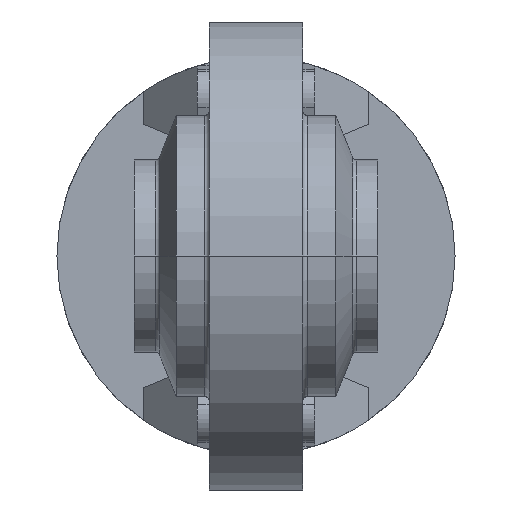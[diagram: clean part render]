
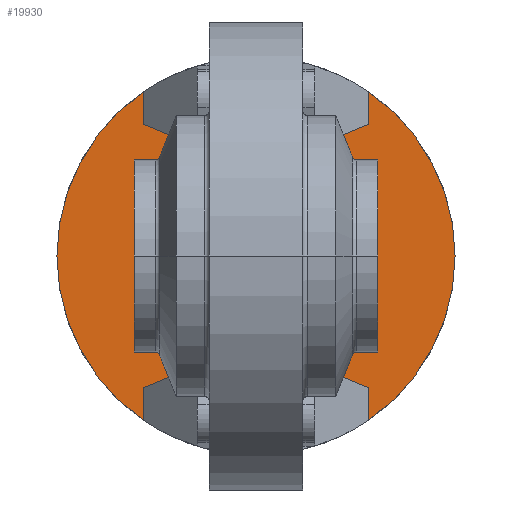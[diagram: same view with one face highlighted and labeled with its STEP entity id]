
A CAD part, front view. The second image highlights one B-rep face of the part: STEP entity #19930.
In plain terms, the highlighted planar face has unit normal (0, -1, 0).
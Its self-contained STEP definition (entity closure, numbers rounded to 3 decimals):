
#19000=CARTESIAN_POINT('',(-73.686,119.743,
0.));
#19010=DIRECTION('',(0.,-1.,0.));
#19020=DIRECTION('',(0.,0.,1.));
#19030=AXIS2_PLACEMENT_3D('',#19000,#19010,#19020);
#19040=PLANE('',#19030);
#19050=CARTESIAN_POINT('',(-49.686,119.743,
0.));
#19060=DIRECTION('',(0.,0.,1.));
#19070=VECTOR('',#19060,1.);
#19080=LINE('',#19050,#19070);
#19090=CARTESIAN_POINT('',(-49.686,119.743,
-35.075));
#19100=VERTEX_POINT('',#19090);
#19110=CARTESIAN_POINT('',(-49.686,119.743,-32.));
#19120=VERTEX_POINT('',#19110);
#19130=EDGE_CURVE('',#19100,#19120,#19080,.T.);
#19140=ORIENTED_EDGE('',*,*,#19130,.F.);
#19150=CARTESIAN_POINT('',(-73.686,119.743,
0.));
#19160=DIRECTION('',(0.,-1.,0.));
#19170=DIRECTION('',(0.,0.,-1.));
#19180=AXIS2_PLACEMENT_3D('',#19150,#19160,#19170);
#19190=CIRCLE('',#19180,40.);
#19200=CARTESIAN_POINT('',(-73.686,119.743,-40.));
#19210=VERTEX_POINT('',#19200);
#19220=EDGE_CURVE('',#19210,#19120,#19190,.T.);
#19230=ORIENTED_EDGE('',*,*,#19220,.T.);
#19240=CARTESIAN_POINT('',(-97.686,119.743,-32.));
#19250=VERTEX_POINT('',#19240);
#19260=EDGE_CURVE('',#19250,#19210,#19190,.T.);
#19270=ORIENTED_EDGE('',*,*,#19260,.T.);
#19280=CARTESIAN_POINT('',(-97.686,119.743,
0.));
#19290=DIRECTION('',(0.,0.,-1.));
#19300=VECTOR('',#19290,1.);
#19310=LINE('',#19280,#19300);
#19320=CARTESIAN_POINT('',(-97.686,119.743,
-35.075));
#19330=VERTEX_POINT('',#19320);
#19340=EDGE_CURVE('',#19250,#19330,#19310,.T.);
#19350=ORIENTED_EDGE('',*,*,#19340,.F.);
#19360=CARTESIAN_POINT('',(-73.686,119.743,
0.));
#19370=DIRECTION('',(0.,-1.,0.));
#19380=DIRECTION('',(0.,0.,1.));
#19390=AXIS2_PLACEMENT_3D('',#19360,#19370,#19380);
#19400=CIRCLE('',#19390,42.5);
#19410=CARTESIAN_POINT('',(-97.686,119.743,
35.075));
#19420=VERTEX_POINT('',#19410);
#19430=EDGE_CURVE('',#19420,#19330,#19400,.T.);
#19440=ORIENTED_EDGE('',*,*,#19430,.T.);
#19450=CARTESIAN_POINT('',(-97.686,119.743,
0.));
#19460=DIRECTION('',(0.,0.,-1.));
#19470=VECTOR('',#19460,1.);
#19480=LINE('',#19450,#19470);
#19490=CARTESIAN_POINT('',(-97.686,119.743,32.));
#19500=VERTEX_POINT('',#19490);
#19510=EDGE_CURVE('',#19420,#19500,#19480,.T.);
#19520=ORIENTED_EDGE('',*,*,#19510,.F.);
#19530=CARTESIAN_POINT('',(-73.686,119.743,
0.));
#19540=DIRECTION('',(0.,-1.,0.));
#19550=DIRECTION('',(0.,0.,1.));
#19560=AXIS2_PLACEMENT_3D('',#19530,#19540,#19550);
#19570=CIRCLE('',#19560,40.);
#19580=CARTESIAN_POINT('',(-73.686,119.743,40.));
#19590=VERTEX_POINT('',#19580);
#19600=EDGE_CURVE('',#19590,#19500,#19570,.T.);
#19610=ORIENTED_EDGE('',*,*,#19600,.T.);
#19620=CARTESIAN_POINT('',(-49.686,119.743,32.));
#19630=VERTEX_POINT('',#19620);
#19640=EDGE_CURVE('',#19630,#19590,#19570,.T.);
#19650=ORIENTED_EDGE('',*,*,#19640,.T.);
#19660=CARTESIAN_POINT('',(-49.686,119.743,
0.));
#19670=DIRECTION('',(0.,0.,1.));
#19680=VECTOR('',#19670,1.);
#19690=LINE('',#19660,#19680);
#19700=CARTESIAN_POINT('',(-49.686,119.743,
35.075));
#19710=VERTEX_POINT('',#19700);
#19720=EDGE_CURVE('',#19630,#19710,#19690,.T.);
#19730=ORIENTED_EDGE('',*,*,#19720,.F.);
#19740=EDGE_CURVE('',#19100,#19710,#19400,.T.);
#19750=ORIENTED_EDGE('',*,*,#19740,.T.);
#19760=EDGE_LOOP('',(#19750,#19730,#19650,#19610,#19520,#19440,#19350,
#19270,#19230,#19140));
#19770=FACE_OUTER_BOUND('',#19760,.T.);
#19780=CARTESIAN_POINT('',(-73.686,119.743,
0.));
#19790=DIRECTION('',(0.,-1.,0.));
#19800=DIRECTION('',(1.,0.,0.));
#19810=AXIS2_PLACEMENT_3D('',#19780,#19790,#19800);
#19820=CIRCLE('',#19810,10.);
#19830=CARTESIAN_POINT('',(-63.686,119.743,
0.));
#19840=VERTEX_POINT('',#19830);
#19850=CARTESIAN_POINT('',(-83.686,119.743,
0.));
#19860=VERTEX_POINT('',#19850);
#19870=EDGE_CURVE('',#19840,#19860,#19820,.T.);
#19880=ORIENTED_EDGE('',*,*,#19870,.F.);
#19890=EDGE_CURVE('',#19860,#19840,#19820,.T.);
#19900=ORIENTED_EDGE('',*,*,#19890,.F.);
#19910=EDGE_LOOP('',(#19900,#19880));
#19920=FACE_BOUND('',#19910,.T.);
#19930=ADVANCED_FACE('',(#19770,#19920),#19040,.T.);
